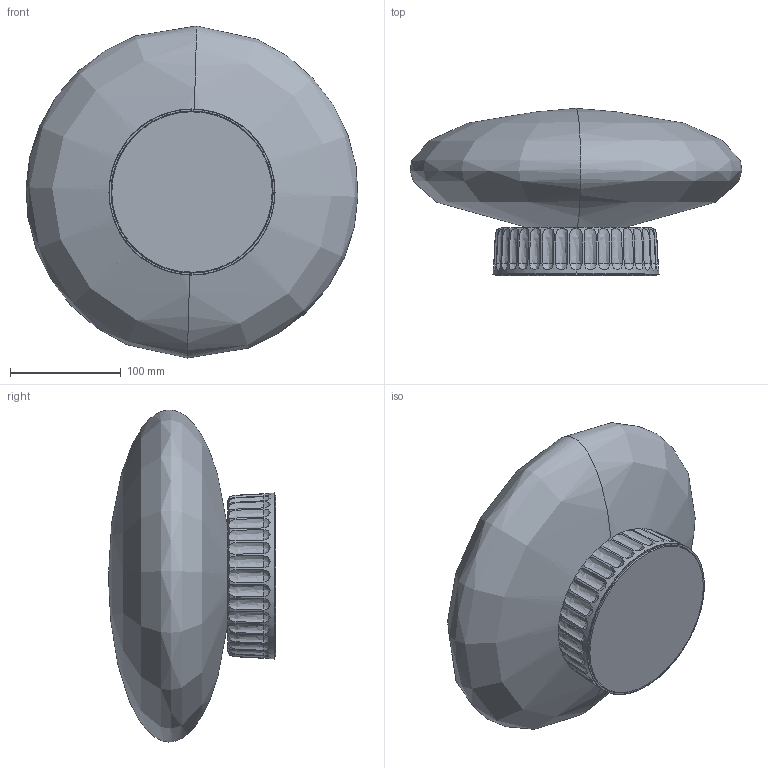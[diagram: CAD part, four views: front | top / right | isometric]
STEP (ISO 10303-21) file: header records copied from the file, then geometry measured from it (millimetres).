
FILE_DESCRIPTION(/* description */ (''),/* implementation_level */ '2;1');
FILE_NAME(/* name */ 'SEM.000232',/* time_stamp */ '2024-02-13T17:36:01+01:00',/* author */ (''),/* organization */ (''),/* preprocessor_version */ 'ST-DEVELOPER v16.5',/* originating_system */ 'Rhino 7.36',/* authorisation */ '');
FILE_SCHEMA (('CONFIG_CONTROL_DESIGN'));
Length unit declared in the file: millimetre
Products named in the file (3): Document; GOM.000018; VET.000079
Assembly tree (2 placements, depth 2):
  Document
    GOM.000018
    VET.000079
Bounding box: 299.79 x 150.89 x 299.85 mm (x, y, z)
Volume: 904915.1 mm3; surface area: 455399.6 mm2
Topology: 5 solids, 5 shells, 217 faces, 592 edges, 393 vertices
Faces by surface type: bspline 162, plane 39, cylinder 16
Entity records: 12049 total; most frequent: CARTESIAN_POINT 8434, ORIENTED_EDGE 1176, EDGE_CURVE 588, VERTEX_POINT 393, B_SPLINE_CURVE_WITH_KNOTS 304, EDGE_LOOP 233, ADVANCED_FACE 217, FACE_OUTER_BOUND 217
